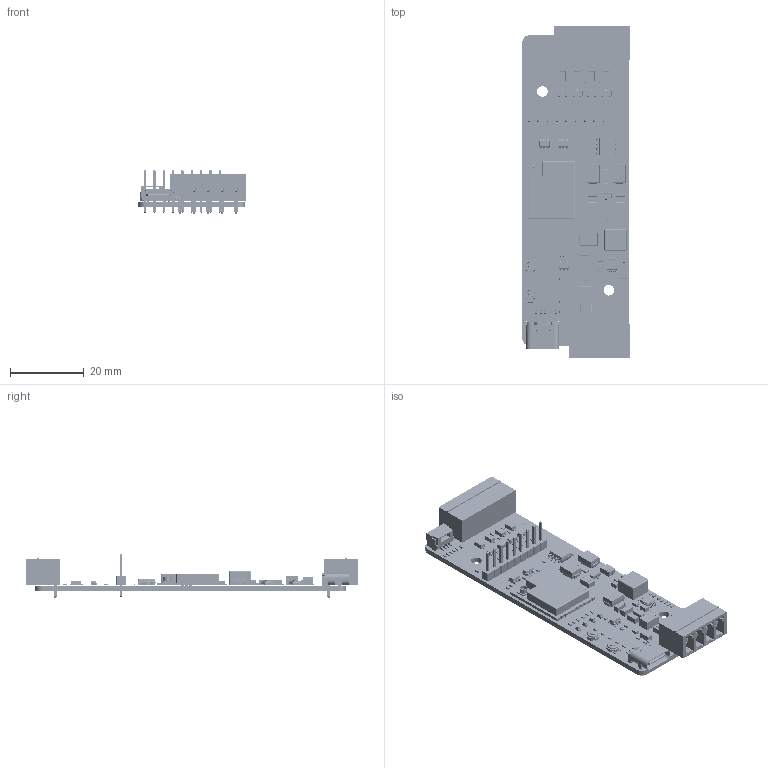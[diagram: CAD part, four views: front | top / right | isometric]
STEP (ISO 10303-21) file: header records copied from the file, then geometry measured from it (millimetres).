
FILE_DESCRIPTION(('KiCad electronic assembly'),'2;1');
FILE_NAME('KAmodESP32-C3-DIN.step','2026-01-21T14:50:03',('Pcbnew'),( 'Kicad'),'Open CASCADE STEP processor 7.9','KiCad to STEP converter' ,'Unknown');
FILE_SCHEMA(('AUTOMOTIVE_DESIGN { 1 0 10303 214 1 1 1 1 }'));
Length unit declared in the file: millimetre
Products named in the file (35): KAmodESP32-C3-DIN 1; R_0402_1005Metric; SOIC-8_3.9x4.9mm_P1.27mm; SOT-23-6; C_1206_3216Metric; C_0402_1005Metric; LED_0603_1608Metric; R_0805_2012Metric; SOT-23; C_0805_2012Metric; D_SOD-323F; D_SOD-123F; PhoenixContact_MC_1,5_5-G-3.81_1x05_P3.81mm_Horizontal; SW_SPST_TL3342; D_SMB; L_1206_3216Metric; ESP32-C3-WROOM-02U; PhoenixContact_MC_1,5_4-G-3.81_1x04_P3.81mm_Horizontal; Fuse_1210_3225Metric; L_Changjiang_FNR6040S; L_1812_4532Metric; SOT-23-5; MSOP-10_3x3mm_P0.5mm; D_SMA; USB_C_Receptacle_GCT_USB4105-xx-A_16P_TopMnt_Horizontal; PinHeader_1x09_P2.54mm_Vertical; JST_GH_SM04B-GHS-TB_1x04-1MP_P1.25mm_Horizontal; KAmodESP32-C3-DIN_copper; KAmodESP32-C3-DIN_pad; KAmodESP32-C3-DIN_via; KAmodESP32-C3-DIN_silkscreen; KAmodESP32-C3-DIN_soldermask; KAmodESP32-C3-DIN_PCB
Assembly tree (109 placements, depth 2):
  KAmodESP32-C3-DIN 1
    R_0402_1005Metric  x35
    SOIC-8_3.9x4.9mm_P1.27mm
    SOT-23-6  x2
    C_1206_3216Metric  x4
    C_0402_1005Metric  x19
    LED_0603_1608Metric  x4
    R_0805_2012Metric  x2
    SOT-23  x5
    C_0805_2012Metric  x3
    D_SOD-323F  x2
    D_SOD-123F  x4
    PhoenixContact_MC_1,5_5-G-3.81_1x05_P3.81mm_Horizontal
    SW_SPST_TL3342  x2
    D_SMB  x3
    L_1206_3216Metric
    ESP32-C3-WROOM-02U
    PhoenixContact_MC_1,5_4-G-3.81_1x04_P3.81mm_Horizontal
    Fuse_1210_3225Metric  x3
    L_Changjiang_FNR6040S
    L_1812_4532Metric
    SOT-23-5
    MSOP-10_3x3mm_P0.5mm
    D_SMA
    USB_C_Receptacle_GCT_USB4105-xx-A_16P_TopMnt_Horizontal
    PinHeader_1x09_P2.54mm_Vertical
    JST_GH_SM04B-GHS-TB_1x04-1MP_P1.25mm_Horizontal
    KAmodESP32-C3-DIN_copper
    KAmodESP32-C3-DIN_pad
    KAmodESP32-C3-DIN_via
    KAmodESP32-C3-DIN_silkscreen
    KAmodESP32-C3-DIN_silkscreen
    KAmodESP32-C3-DIN_soldermask
    KAmodESP32-C3-DIN_soldermask
    KAmodESP32-C3-DIN_PCB
Bounding box: 29.19 x 90.17 x 11.94 mm (x, y, z)
Volume: 6912.9 mm3; surface area: 24818.1 mm2
Topology: 854 solids, 1467 shells, 16764 faces, 61175 edges, 46868 vertices
Faces by surface type: plane 11753, cylinder 4143, bspline 849, sphere 10, cone 8, torus 1
Full cylindrical faces by diameter (mm): 0.15 x48, 0.175 x24, 0.2 x24, 0.25 x167, 0.275 x322, 0.3 x161, 0.4 x1, 0.5 x7, 0.6 x24, 0.65 x2, 0.95 x27, 1 x19, 1.15 x27, 1.2 x18, 1.7 x16, 1.8 x1, 2 x2, 2.902 x2, 3.911 x4
Entity records: 613992 total; most frequent: CARTESIAN_POINT 115597, DIRECTION 91448, ORIENTED_EDGE 89983, EDGE_CURVE 54622, LINE 42872, VECTOR 42872, VERTEX_POINT 42638, AXIS2_PLACEMENT_3D 24288
